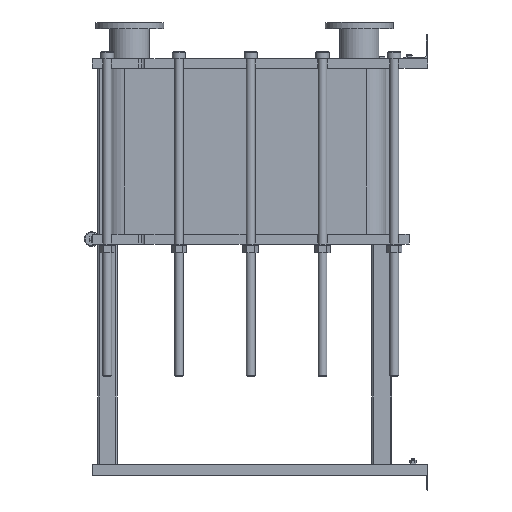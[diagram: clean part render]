
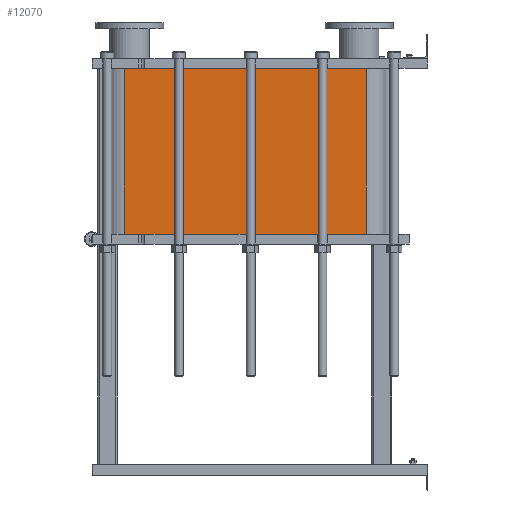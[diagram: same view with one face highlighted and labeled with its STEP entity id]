
A CAD part, left-side view. The second image highlights one B-rep face of the part: STEP entity #12070.
In plain terms, the highlighted planar face has unit normal (-1, 0, 0).
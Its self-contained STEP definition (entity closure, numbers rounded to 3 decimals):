
#1064=LINE('',#21140,#2164);
#1065=LINE('',#21144,#2165);
#1066=LINE('',#21146,#2166);
#1067=LINE('',#21147,#2167);
#2164=VECTOR('',#15790,10.);
#2165=VECTOR('',#15795,10.);
#2166=VECTOR('',#15796,10.);
#2167=VECTOR('',#15797,10.);
#3304=FACE_OUTER_BOUND('',#4091,.T.);
#4091=EDGE_LOOP('',(#9793,#9794,#9795,#9796));
#5677=VERTEX_POINT('',#21137);
#5678=VERTEX_POINT('',#21139);
#5679=VERTEX_POINT('',#21143);
#5680=VERTEX_POINT('',#21145);
#7118=EDGE_CURVE('',#5678,#5677,#1064,.T.);
#7120=EDGE_CURVE('',#5677,#5679,#1065,.T.);
#7121=EDGE_CURVE('',#5680,#5679,#1066,.T.);
#7122=EDGE_CURVE('',#5680,#5678,#1067,.T.);
#9793=ORIENTED_EDGE('',*,*,#7120,.T.);
#9794=ORIENTED_EDGE('',*,*,#7121,.F.);
#9795=ORIENTED_EDGE('',*,*,#7122,.T.);
#9796=ORIENTED_EDGE('',*,*,#7118,.T.);
#11441=PLANE('',#13191);
#12070=ADVANCED_FACE('',(#3304),#11441,.T.);
#13191=AXIS2_PLACEMENT_3D('',#21142,#15793,#15794);
#15790=DIRECTION('',(0.,0.,-1.));
#15793=DIRECTION('center_axis',(-1.,0.,0.));
#15794=DIRECTION('ref_axis',(0.,1.,0.));
#15795=DIRECTION('',(0.,-1.,0.));
#15796=DIRECTION('',(0.,0.,-1.));
#15797=DIRECTION('',(0.,1.,0.));
#21137=CARTESIAN_POINT('',(-248.152,1243.818,-679.65));
#21139=CARTESIAN_POINT('',(-248.152,1243.818,0.));
#21140=CARTESIAN_POINT('',(-248.152,1243.818,0.));
#21142=CARTESIAN_POINT('Origin',(-248.152,251.818,0.));
#21143=CARTESIAN_POINT('',(-248.152,251.818,-679.65));
#21144=CARTESIAN_POINT('',(-248.152,499.818,-679.65));
#21145=CARTESIAN_POINT('',(-248.152,251.818,0.));
#21146=CARTESIAN_POINT('',(-248.152,251.818,0.));
#21147=CARTESIAN_POINT('',(-248.152,251.818,0.));
